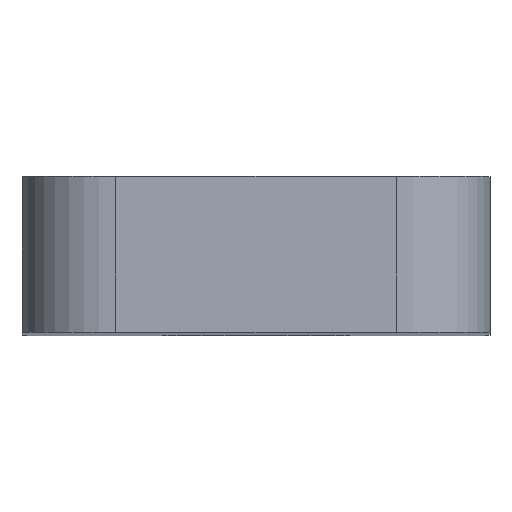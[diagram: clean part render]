
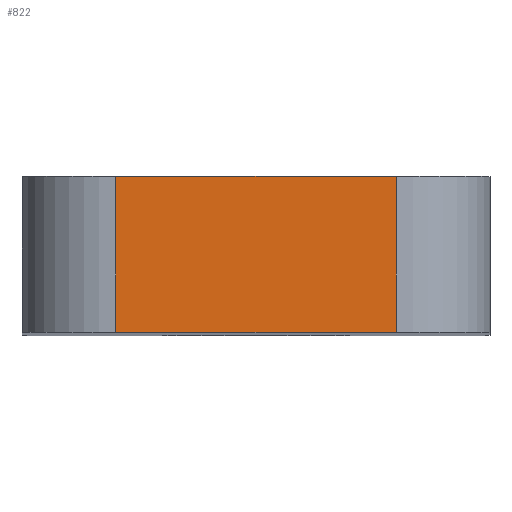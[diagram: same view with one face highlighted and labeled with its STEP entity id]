
A CAD part, top view. The second image highlights one B-rep face of the part: STEP entity #822.
In plain terms, the highlighted planar face has unit normal (0, 0, 1).
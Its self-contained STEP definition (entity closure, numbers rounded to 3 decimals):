
#62 = PLANE('',#63);
#63 = AXIS2_PLACEMENT_3D('',#64,#65,#66);
#64 = CARTESIAN_POINT('',(19.,-5.7,-67.9));
#65 = DIRECTION('',(0.,1.,0.));
#66 = DIRECTION('',(0.,-0.,1.));
#118 = PLANE('',#119);
#119 = AXIS2_PLACEMENT_3D('',#120,#121,#122);
#120 = CARTESIAN_POINT('',(19.,-3.7,-67.9));
#121 = DIRECTION('',(0.,1.,0.));
#122 = DIRECTION('',(0.,-0.,1.));
#144 = CYLINDRICAL_SURFACE('',#145,1.2);
#145 = AXIS2_PLACEMENT_3D('',#146,#147,#148);
#146 = CARTESIAN_POINT('',(20.2,-5.7,-45.2));
#147 = DIRECTION('',(0.,1.,0.));
#148 = DIRECTION('',(-1.,0.,0.));
#217 = VERTEX_POINT('',#218);
#218 = CARTESIAN_POINT('',(20.2,-5.7,-44.));
#240 = EDGE_CURVE('',#217,#241,#243,.T.);
#241 = VERTEX_POINT('',#242);
#242 = CARTESIAN_POINT('',(23.8,-5.7,-44.));
#243 = SURFACE_CURVE('',#244,(#248,#255),.PCURVE_S1.);
#244 = LINE('',#245,#246);
#245 = CARTESIAN_POINT('',(19.,-5.7,-44.));
#246 = VECTOR('',#247,1.);
#247 = DIRECTION('',(1.,0.,0.));
#248 = PCURVE('',#62,#249);
#249 = DEFINITIONAL_REPRESENTATION('',(#250),#254);
#250 = LINE('',#251,#252);
#251 = CARTESIAN_POINT('',(23.9,0.));
#252 = VECTOR('',#253,1.);
#253 = DIRECTION('',(0.,1.));
#254 = ( GEOMETRIC_REPRESENTATION_CONTEXT(2) 
PARAMETRIC_REPRESENTATION_CONTEXT() REPRESENTATION_CONTEXT('2D SPACE',''
  ) );
#255 = PCURVE('',#256,#261);
#256 = PLANE('',#257);
#257 = AXIS2_PLACEMENT_3D('',#258,#259,#260);
#258 = CARTESIAN_POINT('',(19.,-5.7,-44.));
#259 = DIRECTION('',(0.,0.,1.));
#260 = DIRECTION('',(1.,0.,-0.));
#261 = DEFINITIONAL_REPRESENTATION('',(#262),#266);
#262 = LINE('',#263,#264);
#263 = CARTESIAN_POINT('',(0.,0.));
#264 = VECTOR('',#265,1.);
#265 = DIRECTION('',(1.,0.));
#266 = ( GEOMETRIC_REPRESENTATION_CONTEXT(2) 
PARAMETRIC_REPRESENTATION_CONTEXT() REPRESENTATION_CONTEXT('2D SPACE',''
  ) );
#289 = CYLINDRICAL_SURFACE('',#290,1.2);
#290 = AXIS2_PLACEMENT_3D('',#291,#292,#293);
#291 = CARTESIAN_POINT('',(23.8,-5.7,-45.2));
#292 = DIRECTION('',(0.,1.,0.));
#293 = DIRECTION('',(1.,0.,-0.));
#484 = EDGE_CURVE('',#217,#485,#487,.T.);
#485 = VERTEX_POINT('',#486);
#486 = CARTESIAN_POINT('',(20.2,-3.7,-44.));
#487 = SURFACE_CURVE('',#488,(#492,#499),.PCURVE_S1.);
#488 = LINE('',#489,#490);
#489 = CARTESIAN_POINT('',(20.2,-5.7,-44.));
#490 = VECTOR('',#491,1.);
#491 = DIRECTION('',(0.,1.,0.));
#492 = PCURVE('',#144,#493);
#493 = DEFINITIONAL_REPRESENTATION('',(#494),#498);
#494 = LINE('',#495,#496);
#495 = CARTESIAN_POINT('',(1.571,0.));
#496 = VECTOR('',#497,1.);
#497 = DIRECTION('',(0.,1.));
#498 = ( GEOMETRIC_REPRESENTATION_CONTEXT(2) 
PARAMETRIC_REPRESENTATION_CONTEXT() REPRESENTATION_CONTEXT('2D SPACE',''
  ) );
#499 = PCURVE('',#256,#500);
#500 = DEFINITIONAL_REPRESENTATION('',(#501),#505);
#501 = LINE('',#502,#503);
#502 = CARTESIAN_POINT('',(1.2,0.));
#503 = VECTOR('',#504,1.);
#504 = DIRECTION('',(0.,1.));
#505 = ( GEOMETRIC_REPRESENTATION_CONTEXT(2) 
PARAMETRIC_REPRESENTATION_CONTEXT() REPRESENTATION_CONTEXT('2D SPACE',''
  ) );
#559 = EDGE_CURVE('',#485,#560,#562,.T.);
#560 = VERTEX_POINT('',#561);
#561 = CARTESIAN_POINT('',(23.8,-3.7,-44.));
#562 = SURFACE_CURVE('',#563,(#567,#574),.PCURVE_S1.);
#563 = LINE('',#564,#565);
#564 = CARTESIAN_POINT('',(19.,-3.7,-44.));
#565 = VECTOR('',#566,1.);
#566 = DIRECTION('',(1.,0.,0.));
#567 = PCURVE('',#118,#568);
#568 = DEFINITIONAL_REPRESENTATION('',(#569),#573);
#569 = LINE('',#570,#571);
#570 = CARTESIAN_POINT('',(23.9,0.));
#571 = VECTOR('',#572,1.);
#572 = DIRECTION('',(0.,1.));
#573 = ( GEOMETRIC_REPRESENTATION_CONTEXT(2) 
PARAMETRIC_REPRESENTATION_CONTEXT() REPRESENTATION_CONTEXT('2D SPACE',''
  ) );
#574 = PCURVE('',#256,#575);
#575 = DEFINITIONAL_REPRESENTATION('',(#576),#580);
#576 = LINE('',#577,#578);
#577 = CARTESIAN_POINT('',(0.,2.));
#578 = VECTOR('',#579,1.);
#579 = DIRECTION('',(1.,0.));
#580 = ( GEOMETRIC_REPRESENTATION_CONTEXT(2) 
PARAMETRIC_REPRESENTATION_CONTEXT() REPRESENTATION_CONTEXT('2D SPACE',''
  ) );
#801 = EDGE_CURVE('',#241,#560,#802,.T.);
#802 = SURFACE_CURVE('',#803,(#807,#814),.PCURVE_S1.);
#803 = LINE('',#804,#805);
#804 = CARTESIAN_POINT('',(23.8,-5.7,-44.));
#805 = VECTOR('',#806,1.);
#806 = DIRECTION('',(0.,1.,0.));
#807 = PCURVE('',#289,#808);
#808 = DEFINITIONAL_REPRESENTATION('',(#809),#813);
#809 = LINE('',#810,#811);
#810 = CARTESIAN_POINT('',(4.712,0.));
#811 = VECTOR('',#812,1.);
#812 = DIRECTION('',(-0.,1.));
#813 = ( GEOMETRIC_REPRESENTATION_CONTEXT(2) 
PARAMETRIC_REPRESENTATION_CONTEXT() REPRESENTATION_CONTEXT('2D SPACE',''
  ) );
#814 = PCURVE('',#256,#815);
#815 = DEFINITIONAL_REPRESENTATION('',(#816),#820);
#816 = LINE('',#817,#818);
#817 = CARTESIAN_POINT('',(4.8,0.));
#818 = VECTOR('',#819,1.);
#819 = DIRECTION('',(0.,1.));
#820 = ( GEOMETRIC_REPRESENTATION_CONTEXT(2) 
PARAMETRIC_REPRESENTATION_CONTEXT() REPRESENTATION_CONTEXT('2D SPACE',''
  ) );
#822 = ADVANCED_FACE('',(#823),#256,.T.);
#823 = FACE_BOUND('',#824,.T.);
#824 = EDGE_LOOP('',(#825,#826,#827,#828));
#825 = ORIENTED_EDGE('',*,*,#559,.F.);
#826 = ORIENTED_EDGE('',*,*,#484,.F.);
#827 = ORIENTED_EDGE('',*,*,#240,.T.);
#828 = ORIENTED_EDGE('',*,*,#801,.T.);
